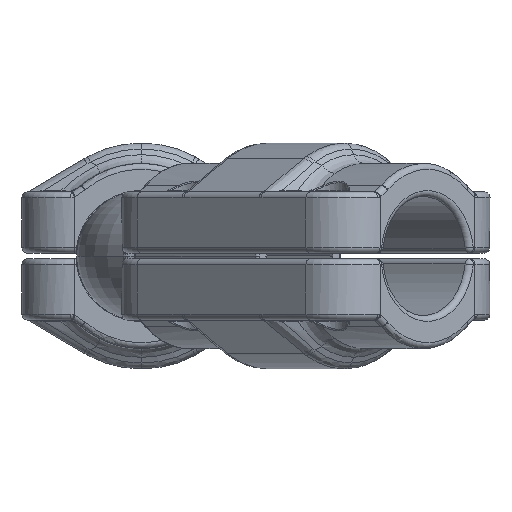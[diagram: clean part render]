
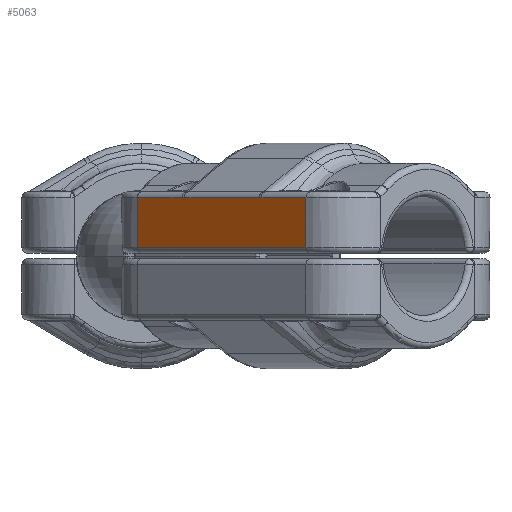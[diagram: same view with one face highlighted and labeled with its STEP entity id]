
A CAD part, left-side view. The second image highlights one B-rep face of the part: STEP entity #5063.
In plain terms, the highlighted planar face has unit normal (-0.707, 0.707, 0) as drawn and (0, -1, 0) by its records, which use the part's own axes.
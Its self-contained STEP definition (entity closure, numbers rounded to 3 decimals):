
#2110=DIRECTION('',(-1.,0.,0.));
#2111=VECTOR('',#2110,18.274);
#2112=CARTESIAN_POINT('',(9.137,-20.5,10.002));
#2113=LINE('',#2112,#2111);
#2119=CARTESIAN_POINT('',(9.569,-20.5,10.));
#2120=CARTESIAN_POINT('',(9.421,-20.5,10.));
#2121=CARTESIAN_POINT('',(9.279,-20.5,10.002));
#2122=CARTESIAN_POINT('',(9.137,-20.5,10.002));
#2230=CARTESIAN_POINT('',(-9.137,-20.5,
10.002));
#2231=CARTESIAN_POINT('',(-9.18,-20.5,
10.002));
#2232=CARTESIAN_POINT('',(-9.27,-20.5,
10.001));
#2233=CARTESIAN_POINT('',(-9.414,-20.5,
10.002));
#2234=CARTESIAN_POINT('',(-9.516,-20.5,
10.));
#2235=CARTESIAN_POINT('',(-9.569,-20.5,
10.));
#2241=DIRECTION('',(1.,0.,0.));
#2242=VECTOR('',#2241,41.);
#2243=CARTESIAN_POINT('',(-20.5,-20.5,1.5));
#2244=LINE('',#2243,#2242);
#2353=DIRECTION('',(0.,0.,1.));
#2354=VECTOR('',#2353,8.5);
#2355=CARTESIAN_POINT('',(20.5,-20.5,1.5));
#2356=LINE('',#2355,#2354);
#2420=DIRECTION('',(-1.,0.,0.));
#2421=VECTOR('',#2420,10.931);
#2422=CARTESIAN_POINT('',(20.5,-20.5,10.));
#2423=LINE('',#2422,#2421);
#2861=DIRECTION('',(-1.,0.,0.));
#2862=VECTOR('',#2861,10.931);
#2863=CARTESIAN_POINT('',(-9.569,-20.5,
10.));
#2864=LINE('',#2863,#2862);
#2869=DIRECTION('',(0.,0.,-1.));
#2870=VECTOR('',#2869,8.5);
#2871=CARTESIAN_POINT('',(-20.5,-20.5,10.));
#2872=LINE('',#2871,#2870);
#4479=CARTESIAN_POINT('',(-20.5,-20.5,1.5));
#4480=VERTEX_POINT('',#4479);
#4482=CARTESIAN_POINT('',(-20.5,-20.5,10.));
#4483=VERTEX_POINT('',#4482);
#4567=CARTESIAN_POINT('',(20.5,-20.5,1.5));
#4568=VERTEX_POINT('',#4567);
#4569=CARTESIAN_POINT('',(20.5,-20.5,10.));
#4570=VERTEX_POINT('',#4569);
#4571=CARTESIAN_POINT('',(-9.569,-20.5,
10.));
#4572=VERTEX_POINT('',#4571);
#4573=VERTEX_POINT('',#2230);
#4574=CARTESIAN_POINT('',(9.137,-20.5,10.002));
#4575=VERTEX_POINT('',#4574);
#4576=VERTEX_POINT('',#2119);
#5043=CARTESIAN_POINT('',(29.5,-20.5,11.));
#5044=DIRECTION('',(0.,1.,0.));
#5045=DIRECTION('',(1.,0.,0.));
#5046=AXIS2_PLACEMENT_3D('',#5043,#5044,#5045);
#5047=PLANE('',#5046);
#5049=ORIENTED_EDGE('',*,*,#5048,.F.);
#5051=ORIENTED_EDGE('',*,*,#5050,.F.);
#5053=ORIENTED_EDGE('',*,*,#5052,.F.);
#5054=ORIENTED_EDGE('',*,*,#5029,.F.);
#5055=ORIENTED_EDGE('',*,*,#4663,.F.);
#5056=ORIENTED_EDGE('',*,*,#4710,.F.);
#5058=ORIENTED_EDGE('',*,*,#5057,.F.);
#5060=ORIENTED_EDGE('',*,*,#5059,.F.);
#5061=EDGE_LOOP('',(#5049,#5051,#5053,#5054,#5055,#5056,#5058,#5060));
#5062=FACE_OUTER_BOUND('',#5061,.F.);
#2123=B_SPLINE_CURVE_WITH_KNOTS('',3,(#2119,#2120,#2121,#2122),.UNSPECIFIED.,
.F.,.F.,(4,4),(0.,1.),.UNSPECIFIED.);
#2236=B_SPLINE_CURVE_WITH_KNOTS('',3,(#2230,#2231,#2232,#2233,#2234,#2235),
.UNSPECIFIED.,.F.,.F.,(4,1,1,4),(0.,0.333,0.667,1.),
.UNSPECIFIED.);
#4663=EDGE_CURVE('',#4575,#4573,#2113,.T.);
#4710=EDGE_CURVE('',#4576,#4575,#2123,.T.);
#5029=EDGE_CURVE('',#4573,#4572,#2236,.T.);
#5048=EDGE_CURVE('',#4480,#4568,#2244,.T.);
#5050=EDGE_CURVE('',#4483,#4480,#2872,.T.);
#5052=EDGE_CURVE('',#4572,#4483,#2864,.T.);
#5057=EDGE_CURVE('',#4570,#4576,#2423,.T.);
#5059=EDGE_CURVE('',#4568,#4570,#2356,.T.);
#5063=ADVANCED_FACE('',(#5062),#5047,.F.);
